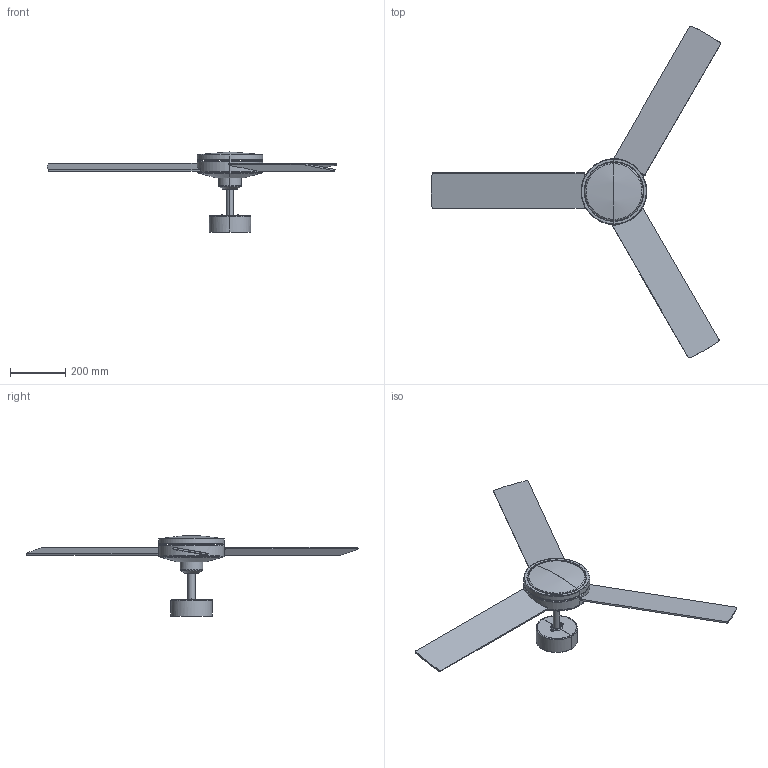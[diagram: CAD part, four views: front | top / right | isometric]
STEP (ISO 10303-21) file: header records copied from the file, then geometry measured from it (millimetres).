
FILE_DESCRIPTION(/* description */ (''),/* implementation_level */ '2;1');
FILE_NAME(/* name */ 'C:\Users\FrancoSartori\Documents\FARO\01_En Proceso\0000_2022\00_BARTH\03_Publicación\34260, 34261.stp',/* time_stamp */ '2022-03-17T13:22:06+01:00',/* author */ ('FrancoSartori'),/* organization */ (''),/* preprocessor_version */ 'ST-DEVELOPER v18.1',/* originating_system */ 'AutoCAD Mechanical',/* authorisation */ '');
FILE_SCHEMA (('AUTOMOTIVE_DESIGN { 1 0 10303 214 3 1 1 }'));
Length unit declared in the file: millimetre
Products named in the file (4): Product; 34260_ 34261_ - fan-467089-Export; 34260_ 34261_ - 34260_dwg_DIAOJIA___-467051-Export; 34260_ 34261_ - 34260_dwg_M4LS-3__-467061-Export
Assembly tree (4 placements, depth 3):
  Product
    34260_ 34261_ - fan-467089-Export
      34260_ 34261_ - 34260_dwg_DIAOJIA___-467051-Export
      34260_ 34261_ - 34260_dwg_M4LS-3__-467061-Export  x2
Bounding box: 1047.36 x 1201.76 x 290.18 mm (x, y, z)
Volume: 3881338.9 mm3; surface area: 1043239.7 mm2
Topology: 8 solids, 12 shells, 560 faces, 1562 edges, 993 vertices
Faces by surface type: plane 238, cylinder 204, torus 83, cone 14, sphere 12, bspline 9
Entity records: 25188 total; most frequent: CARTESIAN_POINT 11763, ORIENTED_EDGE 2861, DIRECTION 2552, EDGE_CURVE 1485, VERTEX_POINT 942, AXIS2_PLACEMENT_3D 889, LINE 774, VECTOR 774
